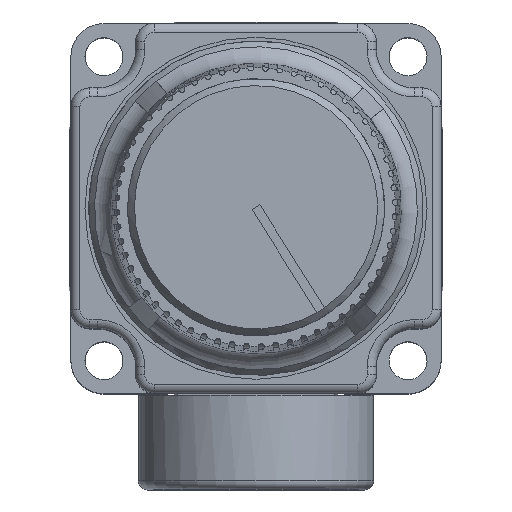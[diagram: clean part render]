
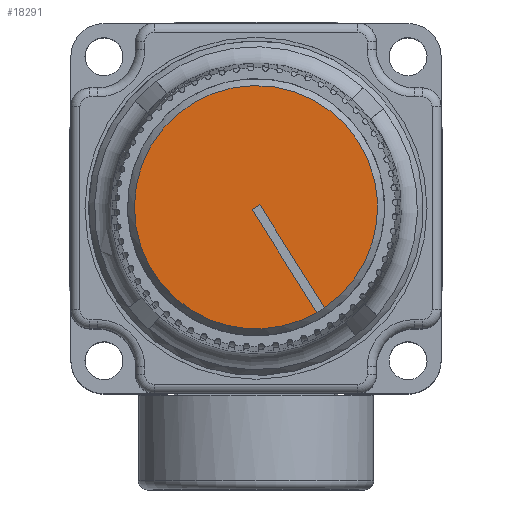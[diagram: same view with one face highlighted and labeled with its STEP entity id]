
A CAD part, top view. The second image highlights one B-rep face of the part: STEP entity #18291.
In plain terms, the highlighted planar face has unit normal (0, 0, 1).
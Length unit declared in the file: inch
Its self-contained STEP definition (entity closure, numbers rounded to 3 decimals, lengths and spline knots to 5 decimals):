
#644=PLANE('',#20150);
#1631=CIRCLE('',#20146,0.4);
#1632=CIRCLE('',#20147,0.4);
#2643=FACE_OUTER_BOUND('',#3734,.T.);
#3734=EDGE_LOOP('',(#14871,#14872,#14873,#14874,#14875));
#5063=LINE('',#38312,#6309);
#5068=LINE('',#38331,#6314);
#5071=LINE('',#38336,#6317);
#6309=VECTOR('',#24681,0.3937);
#6314=VECTOR('',#24692,0.3937);
#6317=VECTOR('',#24697,0.3937);
#7979=VERTEX_POINT('',#38310);
#7980=VERTEX_POINT('',#38311);
#7983=VERTEX_POINT('',#38324);
#7985=VERTEX_POINT('',#38330);
#7987=VERTEX_POINT('',#38340);
#10321=EDGE_CURVE('',#7979,#7980,#5063,.T.);
#10328=EDGE_CURVE('',#7985,#7983,#5068,.T.);
#10331=EDGE_CURVE('',#7980,#7985,#5071,.T.);
#10333=EDGE_CURVE('',#7983,#7987,#1631,.T.);
#10334=EDGE_CURVE('',#7987,#7979,#1632,.T.);
#14871=ORIENTED_EDGE('',*,*,#10328,.T.);
#14872=ORIENTED_EDGE('',*,*,#10333,.T.);
#14873=ORIENTED_EDGE('',*,*,#10334,.T.);
#14874=ORIENTED_EDGE('',*,*,#10321,.T.);
#14875=ORIENTED_EDGE('',*,*,#10331,.T.);
#18291=ADVANCED_FACE('',(#2643),#644,.T.);
#20146=AXIS2_PLACEMENT_3D('',#38341,#24703,#24704);
#20147=AXIS2_PLACEMENT_3D('',#38342,#24705,#24706);
#20150=AXIS2_PLACEMENT_3D('',#38348,#24712,#24713);
#24681=DIRECTION('',(-0.532,0.847,0.));
#24692=DIRECTION('',(0.532,-0.847,0.));
#24697=DIRECTION('',(0.847,0.532,0.));
#24703=DIRECTION('center_axis',(0.,0.,1.));
#24704=DIRECTION('ref_axis',(0.847,0.532,0.));
#24705=DIRECTION('center_axis',(0.,0.,1.));
#24706=DIRECTION('ref_axis',(0.847,0.532,0.));
#24712=DIRECTION('center_axis',(0.,0.,1.));
#24713=DIRECTION('ref_axis',(1.,0.,0.));
#38310=CARTESIAN_POINT('',(0.15162,-0.38235,1.8705));
#38311=CARTESIAN_POINT('',(-0.06087,-0.04379,1.8705));
#38312=CARTESIAN_POINT('',(0.15162,-0.38235,1.8705));
#38324=CARTESIAN_POINT('',(0.17703,-0.3664,1.8705));
#38330=CARTESIAN_POINT('',(-0.03546,-0.02784,1.8705));
#38331=CARTESIAN_POINT('',(-0.03546,-0.02784,1.8705));
#38336=CARTESIAN_POINT('',(-0.06087,-0.04379,1.8705));
#38340=CARTESIAN_POINT('',(-0.20032,-0.40574,1.8705));
#38341=CARTESIAN_POINT('Origin',(-0.04816,-0.03581,
1.8705));
#38342=CARTESIAN_POINT('Origin',(-0.04816,-0.03581,
1.8705));
#38348=CARTESIAN_POINT('Origin',(-0.39693,-0.25165,
1.8705));
